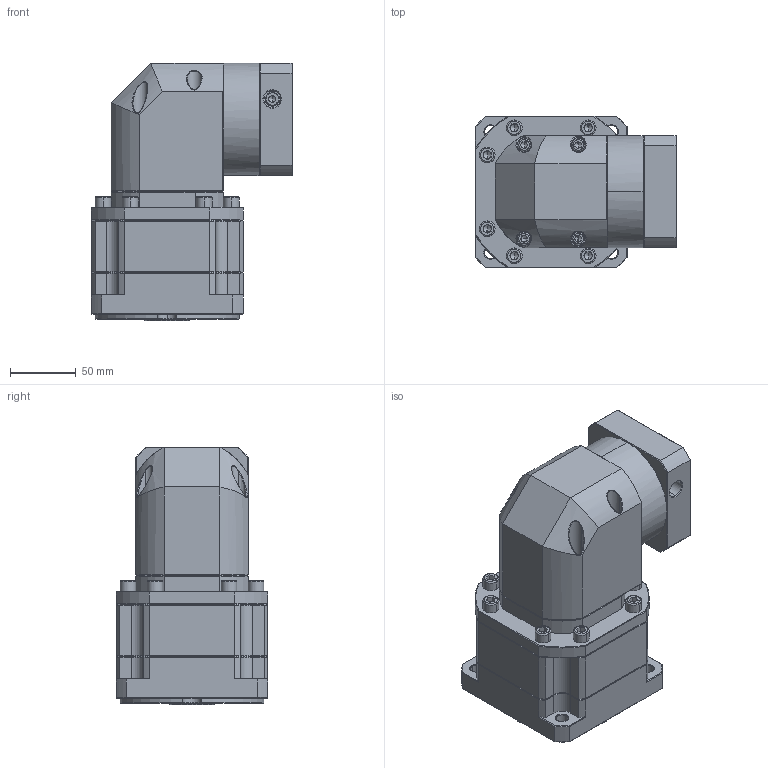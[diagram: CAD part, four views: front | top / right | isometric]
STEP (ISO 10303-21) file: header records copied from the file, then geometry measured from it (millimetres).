
FILE_DESCRIPTION (( 'STEP AP214' ), '1' );
FILE_NAME ('ZB115A-K25-L2-P2-14-60-75-M6.step', '2023-08-26T13:31:57', ( '' ), ( '' ), 'SwSTEP 2.0', 'SolidWorks 2016', '' );
FILE_SCHEMA (( 'AUTOMOTIVE_DESIGN' ));
Length unit declared in the file: millimetre
Products named in the file (1): ZB115A-K25-L2-P2-14-60-75-M6
Bounding box: 152.6 x 115 x 195 mm (x, y, z)
Volume: 1898023.8 mm3; surface area: 174476.5 mm2
Topology: 6 solids, 6 shells, 2556 faces, 6600 edges, 4152 vertices
Faces by surface type: plane 1293, cylinder 447, bspline 442, cone 360, torus 14
Entity records: 132113 total; most frequent: CARTESIAN_POINT 45392, ORIENTED_EDGE 13096, DIRECTION 10556, EDGE_CURVE 6548, VECTOR 4274, LINE 4274, VERTEX_POINT 4152, AXIS2_PLACEMENT_3D 3141
